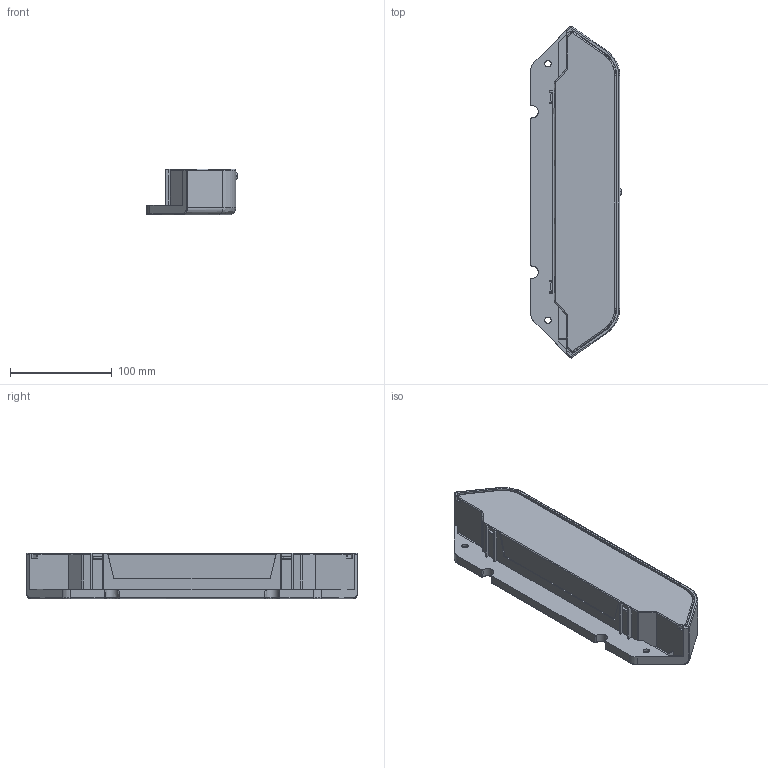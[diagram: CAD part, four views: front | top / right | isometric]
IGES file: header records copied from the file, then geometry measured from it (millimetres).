
Start section: SolidWorks IGES file using analytic representation for surfaces
Bounding box: 89.1 x 325.98 x 45 mm (x, y, z)
Surface area: 93735.9 mm2 (no closed solid volume)
Topology: 0 solids, 0 shells, 313 faces, 2823 edges, 2816 vertices
Faces by surface type: bspline 194, revolution 119
